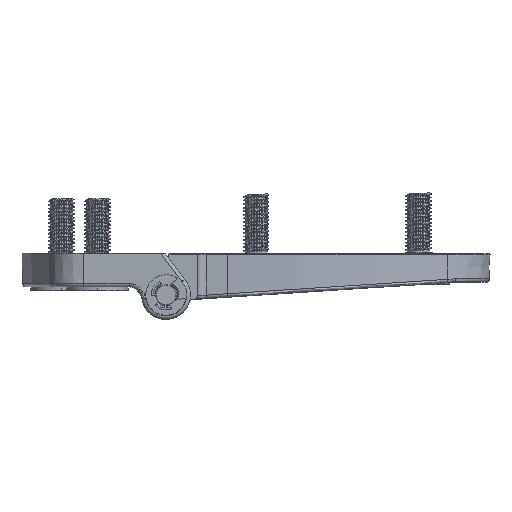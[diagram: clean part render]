
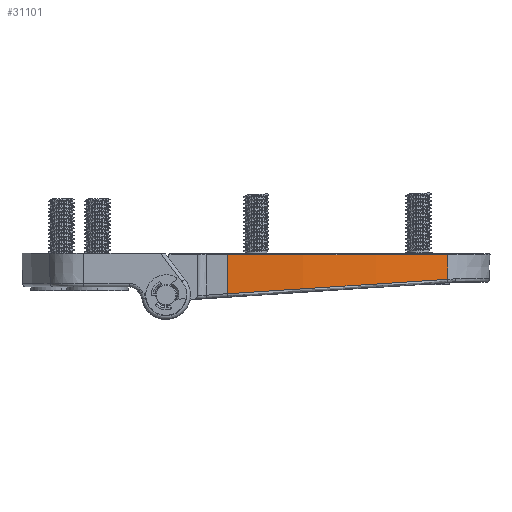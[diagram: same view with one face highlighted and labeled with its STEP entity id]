
A CAD part, left-side view. The second image highlights one B-rep face of the part: STEP entity #31101.
In plain terms, the highlighted conical face has half-angle 1 degrees and reference radius 159 mm.
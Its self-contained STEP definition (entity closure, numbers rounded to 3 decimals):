
#230 = CARTESIAN_POINT ( 'NONE',  ( -78.508, -20.979, 7.027 ) ) ;
#706 = CARTESIAN_POINT ( 'NONE',  ( -78.446, -23.595, 7.198 ) ) ;
#2619 = AXIS2_PLACEMENT_3D ( 'NONE', #13847, #10932, #10770 ) ;
#2999 = CARTESIAN_POINT ( 'NONE',  ( -76.478, -44.366, 8.555 ) ) ;
#4721 = CARTESIAN_POINT ( 'NONE',  ( -78.7, -18.363, 18. ) ) ;
#5092 = VECTOR ( 'NONE', #15751, 1000. ) ;
#5250 = CARTESIAN_POINT ( 'NONE',  ( -68.381, -74.583, 10.529 ) ) ;
#5415 = CARTESIAN_POINT ( 'NONE',  ( -78.505, -18.363, 6.856 ) ) ;
#5628 = VERTEX_POINT ( 'NONE', #32028 ) ;
#6987 = ORIENTED_EDGE ( 'NONE', *, *, #18380, .T. ) ;
#7257 = CIRCLE ( 'NONE', #2619, 158.995 ) ;
#7686 = CARTESIAN_POINT ( 'NONE',  ( -72.419, -62.166, 9.718 ) ) ;
#7928 = ORIENTED_EDGE ( 'NONE', *, *, #22545, .F. ) ;
#7942 = VERTEX_POINT ( 'NONE', #8275 ) ;
#8275 = CARTESIAN_POINT ( 'NONE',  ( -66.486, -79.463, 17.695 ) ) ;
#9673 = CARTESIAN_POINT ( 'NONE',  ( -78.694, -18.363, 17.695 ) ) ;
#10108 = CARTESIAN_POINT ( 'NONE',  ( -78.194, -28.82, 7.539 ) ) ;
#10770 = DIRECTION ( 'NONE',  ( 1., 0., 0. ) ) ;
#10932 = DIRECTION ( 'NONE',  ( 0., 0., -1. ) ) ;
#11762 = EDGE_CURVE ( 'NONE', #25314, #29426, #21949, .T. ) ;
#13733 = EDGE_LOOP ( 'NONE', ( #7928, #6987, #27573, #22737 ) ) ;
#13847 = CARTESIAN_POINT ( 'NONE',  ( 80.3, -18.363, 17.695 ) ) ;
#15329 = CARTESIAN_POINT ( 'NONE',  ( -77.24, -39.216, 8.218 ) ) ;
#15751 = DIRECTION ( 'NONE',  ( 0.017, 0., -1. ) ) ;
#15775 = CONICAL_SURFACE ( 'NONE', #26146, 159., 0.017 ) ;
#16474 = FACE_OUTER_BOUND ( 'NONE', #13733, .T. ) ;
#17616 = CARTESIAN_POINT ( 'NONE',  ( -70.143, -69.666, 10.208 ) ) ;
#18380 = EDGE_CURVE ( 'NONE', #7942, #25314, #7257, .T. ) ;
#19436 = DIRECTION ( 'NONE',  ( 0.016, 0.007, -1. ) ) ;
#19477 = VECTOR ( 'NONE', #19436, 1000. ) ;
#20050 = CARTESIAN_POINT ( 'NONE',  ( -74.956, -52.03, 9.055 ) ) ;
#21881 = LINE ( 'NONE', #26273, #19477 ) ;
#21949 = LINE ( 'NONE', #4721, #5092 ) ;
#22545 = EDGE_CURVE ( 'NONE', #7942, #5628, #21881, .T. ) ;
#22737 = ORIENTED_EDGE ( 'NONE', *, *, #27308, .T. ) ;
#23064 = CARTESIAN_POINT ( 'NONE',  ( -78.505, -18.363, 6.856 ) ) ;
#24752 = CARTESIAN_POINT ( 'NONE',  ( -78.003, -31.428, 7.71 ) ) ;
#25064 = CARTESIAN_POINT ( 'NONE',  ( -66.375, -79.417, 10.845 ) ) ;
#25314 = VERTEX_POINT ( 'NONE', #9673 ) ;
#25418 = B_SPLINE_CURVE_WITH_KNOTS ( 'NONE', 3,
 ( #5415, #230, #706, #10108, #24752, #15329, #2999, #20050, #29926, #29758, #7686, #17616, #5250, #25064 ),
 .UNSPECIFIED., .F., .F.,
 ( 4, 2, 2, 2, 2, 2, 4 ),
 ( 0., 0.008, 0.016, 0.031, 0.039, 0.047, 0.063 ),
 .UNSPECIFIED. ) ;
#26146 = AXIS2_PLACEMENT_3D ( 'NONE', #26520, #28784, #26370 ) ;
#26273 = CARTESIAN_POINT ( 'NONE',  ( -66.491, -79.465, 18. ) ) ;
#26370 = DIRECTION ( 'NONE',  ( 1., 0., 0. ) ) ;
#26520 = CARTESIAN_POINT ( 'NONE',  ( 80.3, -18.363, 18. ) ) ;
#27308 = EDGE_CURVE ( 'NONE', #29426, #5628, #25418, .T. ) ;
#27573 = ORIENTED_EDGE ( 'NONE', *, *, #11762, .T. ) ;
#28784 = DIRECTION ( 'NONE',  ( 0., 0., 1. ) ) ;
#29426 = VERTEX_POINT ( 'NONE', #23064 ) ;
#29758 = CARTESIAN_POINT ( 'NONE',  ( -73.118, -59.641, 9.553 ) ) ;
#29926 = CARTESIAN_POINT ( 'NONE',  ( -74.386, -54.574, 9.222 ) ) ;
#31101 = ADVANCED_FACE ( 'NONE', ( #16474 ), #15775, .T. ) ;
#32028 = CARTESIAN_POINT ( 'NONE',  ( -66.375, -79.417, 10.845 ) ) ;
